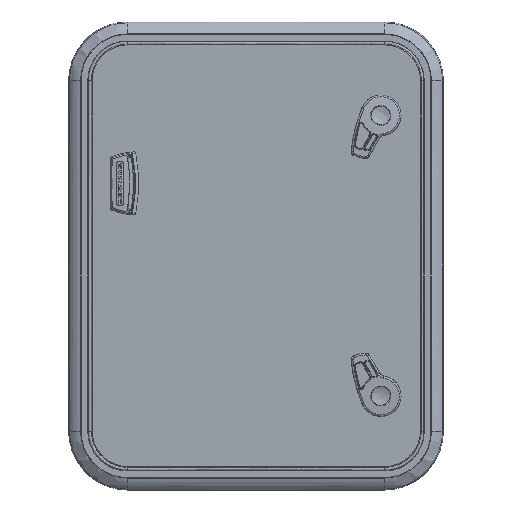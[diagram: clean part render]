
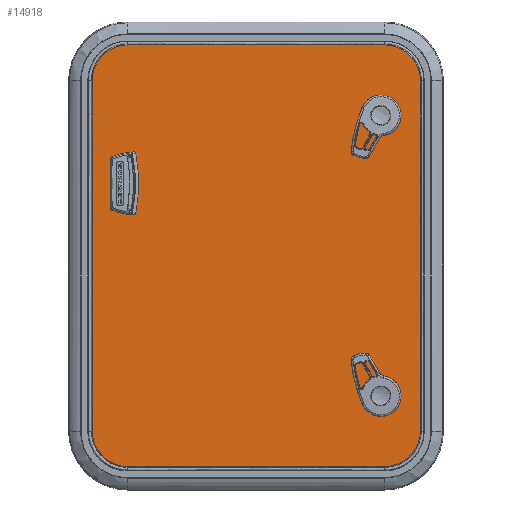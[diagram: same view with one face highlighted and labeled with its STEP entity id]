
A CAD part, top view. The second image highlights one B-rep face of the part: STEP entity #14918.
In plain terms, the highlighted planar face has unit normal (0, 0, 1) as drawn and (0, 1, 0) by its records, which use the part's own axes.
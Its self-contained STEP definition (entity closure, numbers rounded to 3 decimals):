
#13965=CARTESIAN_POINT('',(110.55,8.,-167.));
#13966=DIRECTION('',(0.,-1.,0.));
#13967=DIRECTION('',(0.,0.,-1.));
#13968=AXIS2_PLACEMENT_3D('',#13965,#13966,#13967);
#13970=DIRECTION('',(1.,0.,0.));
#13971=VECTOR('',#13970,43.1);
#13972=CARTESIAN_POINT('',(67.45,8.,-172.5));
#13973=LINE('',#13972,#13971);
#13974=CARTESIAN_POINT('',(67.45,8.,-167.));
#13975=DIRECTION('',(0.,-1.,0.));
#13976=DIRECTION('',(0.,0.,1.));
#13977=AXIS2_PLACEMENT_3D('',#13974,#13975,#13976);
#13979=DIRECTION('',(-1.,0.,0.));
#13980=VECTOR('',#13979,43.1);
#13981=CARTESIAN_POINT('',(110.55,8.,-161.5));
#13982=LINE('',#13981,#13980);
#13983=CARTESIAN_POINT('',(-168.198,8.,156.617));
#13984=DIRECTION('',(0.,-1.,0.));
#13985=DIRECTION('',(0.866,0.,-0.5));
#13986=AXIS2_PLACEMENT_3D('',#13983,#13984,#13985);
#13988=DIRECTION('',(0.5,0.,0.866));
#13989=VECTOR('',#13988,10.2);
#13990=CARTESIAN_POINT('',(-168.968,8.,145.283));
#13991=LINE('',#13990,#13989);
#13992=CARTESIAN_POINT('',(-173.298,8.,147.783));
#13993=DIRECTION('',(0.,-1.,0.));
#13994=DIRECTION('',(-0.5,0.,-0.866));
#13995=AXIS2_PLACEMENT_3D('',#13992,#13993,#13994);
#13997=DIRECTION('',(0.866,0.,-0.5));
#13998=VECTOR('',#13997,5.2);
#13999=CARTESIAN_POINT('',(-180.302,8.,146.053));
#14000=LINE('',#13999,#13998);
#14001=CARTESIAN_POINT('',(-177.802,8.,150.383));
#14002=DIRECTION('',(0.,-1.,0.));
#14003=DIRECTION('',(-0.866,0.,0.5));
#14004=AXIS2_PLACEMENT_3D('',#14001,#14002,#14003);
#14006=DIRECTION('',(-0.5,0.,-0.866));
#14007=VECTOR('',#14006,10.2);
#14008=CARTESIAN_POINT('',(-177.032,8.,161.717));
#14009=LINE('',#14008,#14007);
#14010=CARTESIAN_POINT('',(-172.702,8.,159.217));
#14011=DIRECTION('',(0.,-1.,0.));
#14012=DIRECTION('',(0.5,0.,0.866));
#14013=AXIS2_PLACEMENT_3D('',#14010,#14011,#14012);
#14015=DIRECTION('',(-0.866,0.,0.5));
#14016=VECTOR('',#14015,5.2);
#14017=CARTESIAN_POINT('',(-165.698,8.,160.947));
#14018=LINE('',#14017,#14016);
#14019=CARTESIAN_POINT('',(168.198,8.,156.617));
#14020=DIRECTION('',(0.,1.,0.));
#14021=DIRECTION('',(-0.866,0.,-0.5));
#14022=AXIS2_PLACEMENT_3D('',#14019,#14020,#14021);
#14024=DIRECTION('',(0.866,0.,0.5));
#14025=VECTOR('',#14024,5.2);
#14026=CARTESIAN_POINT('',(165.698,8.,160.947));
#14027=LINE('',#14026,#14025);
#14028=CARTESIAN_POINT('',(172.702,8.,159.217));
#14029=DIRECTION('',(0.,1.,0.));
#14030=DIRECTION('',(-0.5,0.,0.866));
#14031=AXIS2_PLACEMENT_3D('',#14028,#14029,#14030);
#14033=DIRECTION('',(0.5,0.,-0.866));
#14034=VECTOR('',#14033,10.2);
#14035=CARTESIAN_POINT('',(177.032,8.,161.717));
#14036=LINE('',#14035,#14034);
#14037=CARTESIAN_POINT('',(177.802,8.,150.383));
#14038=DIRECTION('',(0.,1.,0.));
#14039=DIRECTION('',(0.866,0.,0.5));
#14040=AXIS2_PLACEMENT_3D('',#14037,#14038,#14039);
#14042=DIRECTION('',(-0.866,0.,-0.5));
#14043=VECTOR('',#14042,5.2);
#14044=CARTESIAN_POINT('',(180.302,8.,146.053));
#14045=LINE('',#14044,#14043);
#14046=CARTESIAN_POINT('',(173.298,8.,147.783));
#14047=DIRECTION('',(0.,1.,0.));
#14048=DIRECTION('',(0.5,0.,-0.866));
#14049=AXIS2_PLACEMENT_3D('',#14046,#14047,#14048);
#14051=DIRECTION('',(-0.5,0.,0.866));
#14052=VECTOR('',#14051,10.2);
#14053=CARTESIAN_POINT('',(168.968,8.,145.283));
#14054=LINE('',#14053,#14052);
#14055=DIRECTION('',(-1.,0.,0.));
#14056=VECTOR('',#14055,431.);
#14057=CARTESIAN_POINT('',(215.5,8.,-202.5));
#14058=LINE('',#14057,#14056);
#14059=CARTESIAN_POINT('',(215.5,8.,-158.));
#14060=DIRECTION('',(0.,1.,0.));
#14061=DIRECTION('',(1.,0.,0.));
#14062=AXIS2_PLACEMENT_3D('',#14059,#14060,#14061);
#14064=DIRECTION('',(0.,0.,-1.));
#14065=VECTOR('',#14064,316.);
#14066=CARTESIAN_POINT('',(260.,8.,158.));
#14067=LINE('',#14066,#14065);
#14068=CARTESIAN_POINT('',(215.5,8.,158.));
#14069=DIRECTION('',(0.,1.,0.));
#14070=DIRECTION('',(0.,0.,1.));
#14071=AXIS2_PLACEMENT_3D('',#14068,#14069,#14070);
#14073=DIRECTION('',(1.,0.,0.));
#14074=VECTOR('',#14073,431.);
#14075=CARTESIAN_POINT('',(-215.5,8.,202.5));
#14076=LINE('',#14075,#14074);
#14077=CARTESIAN_POINT('',(-215.5,8.,158.));
#14078=DIRECTION('',(0.,1.,0.));
#14079=DIRECTION('',(-1.,0.,0.));
#14080=AXIS2_PLACEMENT_3D('',#14077,#14078,#14079);
#14082=DIRECTION('',(0.,0.,1.));
#14083=VECTOR('',#14082,316.);
#14084=CARTESIAN_POINT('',(-260.,8.,-158.));
#14085=LINE('',#14084,#14083);
#14086=CARTESIAN_POINT('',(-215.5,8.,-158.));
#14087=DIRECTION('',(0.,1.,0.));
#14088=DIRECTION('',(0.,0.,-1.));
#14089=AXIS2_PLACEMENT_3D('',#14086,#14087,#14088);
#14330=CARTESIAN_POINT('',(110.55,8.,-172.5));
#14331=CARTESIAN_POINT('',(110.55,8.,-161.5));
#14332=VERTEX_POINT('',#14330);
#14333=VERTEX_POINT('',#14331);
#14334=CARTESIAN_POINT('',(67.45,8.,-161.5));
#14335=VERTEX_POINT('',#14334);
#14336=CARTESIAN_POINT('',(67.45,8.,-172.5));
#14337=VERTEX_POINT('',#14336);
#14386=CARTESIAN_POINT('',(-163.868,8.,154.117));
#14387=CARTESIAN_POINT('',(-165.698,8.,160.947));
#14388=VERTEX_POINT('',#14386);
#14389=VERTEX_POINT('',#14387);
#14390=CARTESIAN_POINT('',(-170.202,8.,163.547));
#14391=VERTEX_POINT('',#14390);
#14392=CARTESIAN_POINT('',(-177.032,8.,161.717));
#14393=VERTEX_POINT('',#14392);
#14394=CARTESIAN_POINT('',(-182.132,8.,152.883));
#14395=VERTEX_POINT('',#14394);
#14396=CARTESIAN_POINT('',(-180.302,8.,146.053));
#14397=VERTEX_POINT('',#14396);
#14398=CARTESIAN_POINT('',(-175.798,8.,143.453));
#14399=VERTEX_POINT('',#14398);
#14400=CARTESIAN_POINT('',(-168.968,8.,145.283));
#14401=VERTEX_POINT('',#14400);
#14418=CARTESIAN_POINT('',(163.868,8.,154.117));
#14419=CARTESIAN_POINT('',(165.698,8.,160.947));
#14420=VERTEX_POINT('',#14418);
#14421=VERTEX_POINT('',#14419);
#14422=CARTESIAN_POINT('',(170.202,8.,163.547));
#14423=VERTEX_POINT('',#14422);
#14424=CARTESIAN_POINT('',(177.032,8.,161.717));
#14425=VERTEX_POINT('',#14424);
#14426=CARTESIAN_POINT('',(182.132,8.,152.883));
#14427=VERTEX_POINT('',#14426);
#14428=CARTESIAN_POINT('',(180.302,8.,146.053));
#14429=VERTEX_POINT('',#14428);
#14430=CARTESIAN_POINT('',(175.798,8.,143.453));
#14431=VERTEX_POINT('',#14430);
#14432=CARTESIAN_POINT('',(168.968,8.,145.283));
#14433=VERTEX_POINT('',#14432);
#14434=CARTESIAN_POINT('',(215.5,8.,-202.5));
#14435=CARTESIAN_POINT('',(-215.5,8.,-202.5));
#14436=VERTEX_POINT('',#14434);
#14437=VERTEX_POINT('',#14435);
#14438=CARTESIAN_POINT('',(-260.,8.,-158.));
#14439=VERTEX_POINT('',#14438);
#14440=CARTESIAN_POINT('',(-260.,8.,158.));
#14441=VERTEX_POINT('',#14440);
#14442=CARTESIAN_POINT('',(-215.5,8.,202.5));
#14443=VERTEX_POINT('',#14442);
#14444=CARTESIAN_POINT('',(215.5,8.,202.5));
#14445=VERTEX_POINT('',#14444);
#14446=CARTESIAN_POINT('',(260.,8.,158.));
#14447=VERTEX_POINT('',#14446);
#14448=CARTESIAN_POINT('',(260.,8.,-158.));
#14449=VERTEX_POINT('',#14448);
#14850=CARTESIAN_POINT('',(0.,8.,0.));
#14851=DIRECTION('',(0.,1.,0.));
#14852=DIRECTION('',(1.,0.,0.));
#14853=AXIS2_PLACEMENT_3D('',#14850,#14851,#14852);
#14854=PLANE('',#14853);
#14856=ORIENTED_EDGE('',*,*,#14855,.F.);
#14858=ORIENTED_EDGE('',*,*,#14857,.F.);
#14860=ORIENTED_EDGE('',*,*,#14859,.F.);
#14861=ORIENTED_EDGE('',*,*,#14840,.F.);
#14863=ORIENTED_EDGE('',*,*,#14862,.F.);
#14865=ORIENTED_EDGE('',*,*,#14864,.F.);
#14867=ORIENTED_EDGE('',*,*,#14866,.F.);
#14869=ORIENTED_EDGE('',*,*,#14868,.F.);
#14870=EDGE_LOOP('',(#14856,#14858,#14860,#14861,#14863,#14865,#14867,#14869));
#14871=FACE_OUTER_BOUND('',#14870,.F.);
#14873=ORIENTED_EDGE('',*,*,#14872,.F.);
#14875=ORIENTED_EDGE('',*,*,#14874,.F.);
#14877=ORIENTED_EDGE('',*,*,#14876,.F.);
#14879=ORIENTED_EDGE('',*,*,#14878,.F.);
#14880=EDGE_LOOP('',(#14873,#14875,#14877,#14879));
#14881=FACE_BOUND('',#14880,.F.);
#14883=ORIENTED_EDGE('',*,*,#14882,.F.);
#14885=ORIENTED_EDGE('',*,*,#14884,.F.);
#14887=ORIENTED_EDGE('',*,*,#14886,.F.);
#14889=ORIENTED_EDGE('',*,*,#14888,.F.);
#14891=ORIENTED_EDGE('',*,*,#14890,.F.);
#14893=ORIENTED_EDGE('',*,*,#14892,.F.);
#14895=ORIENTED_EDGE('',*,*,#14894,.F.);
#14897=ORIENTED_EDGE('',*,*,#14896,.F.);
#14898=EDGE_LOOP('',(#14883,#14885,#14887,#14889,#14891,#14893,#14895,#14897));
#14899=FACE_BOUND('',#14898,.F.);
#14901=ORIENTED_EDGE('',*,*,#14900,.T.);
#14903=ORIENTED_EDGE('',*,*,#14902,.T.);
#14905=ORIENTED_EDGE('',*,*,#14904,.T.);
#14907=ORIENTED_EDGE('',*,*,#14906,.T.);
#14909=ORIENTED_EDGE('',*,*,#14908,.T.);
#14911=ORIENTED_EDGE('',*,*,#14910,.T.);
#14913=ORIENTED_EDGE('',*,*,#14912,.T.);
#14915=ORIENTED_EDGE('',*,*,#14914,.T.);
#14916=EDGE_LOOP('',(#14901,#14903,#14905,#14907,#14909,#14911,#14913,#14915));
#14917=FACE_BOUND('',#14916,.F.);
#14918=ADVANCED_FACE('',(#14871,#14881,#14899,#14917),#14854,.T.);
#13969=CIRCLE('',#13968,5.5);
#13978=CIRCLE('',#13977,5.5);
#13987=CIRCLE('',#13986,5.);
#13996=CIRCLE('',#13995,5.);
#14005=CIRCLE('',#14004,5.);
#14014=CIRCLE('',#14013,5.);
#14023=CIRCLE('',#14022,5.);
#14032=CIRCLE('',#14031,5.);
#14041=CIRCLE('',#14040,5.);
#14050=CIRCLE('',#14049,5.);
#14063=CIRCLE('',#14062,44.5);
#14072=CIRCLE('',#14071,44.5);
#14081=CIRCLE('',#14080,44.5);
#14090=CIRCLE('',#14089,44.5);
#14840=EDGE_CURVE('',#14445,#14447,#14072,.T.);
#14855=EDGE_CURVE('',#14436,#14437,#14058,.T.);
#14857=EDGE_CURVE('',#14449,#14436,#14063,.T.);
#14859=EDGE_CURVE('',#14447,#14449,#14067,.T.);
#14862=EDGE_CURVE('',#14443,#14445,#14076,.T.);
#14864=EDGE_CURVE('',#14441,#14443,#14081,.T.);
#14866=EDGE_CURVE('',#14439,#14441,#14085,.T.);
#14868=EDGE_CURVE('',#14437,#14439,#14090,.T.);
#14872=EDGE_CURVE('',#14332,#14333,#13969,.T.);
#14874=EDGE_CURVE('',#14337,#14332,#13973,.T.);
#14876=EDGE_CURVE('',#14335,#14337,#13978,.T.);
#14878=EDGE_CURVE('',#14333,#14335,#13982,.T.);
#14882=EDGE_CURVE('',#14388,#14389,#13987,.T.);
#14884=EDGE_CURVE('',#14401,#14388,#13991,.T.);
#14886=EDGE_CURVE('',#14399,#14401,#13996,.T.);
#14888=EDGE_CURVE('',#14397,#14399,#14000,.T.);
#14890=EDGE_CURVE('',#14395,#14397,#14005,.T.);
#14892=EDGE_CURVE('',#14393,#14395,#14009,.T.);
#14894=EDGE_CURVE('',#14391,#14393,#14014,.T.);
#14896=EDGE_CURVE('',#14389,#14391,#14018,.T.);
#14900=EDGE_CURVE('',#14420,#14421,#14023,.T.);
#14902=EDGE_CURVE('',#14421,#14423,#14027,.T.);
#14904=EDGE_CURVE('',#14423,#14425,#14032,.T.);
#14906=EDGE_CURVE('',#14425,#14427,#14036,.T.);
#14908=EDGE_CURVE('',#14427,#14429,#14041,.T.);
#14910=EDGE_CURVE('',#14429,#14431,#14045,.T.);
#14912=EDGE_CURVE('',#14431,#14433,#14050,.T.);
#14914=EDGE_CURVE('',#14433,#14420,#14054,.T.);
